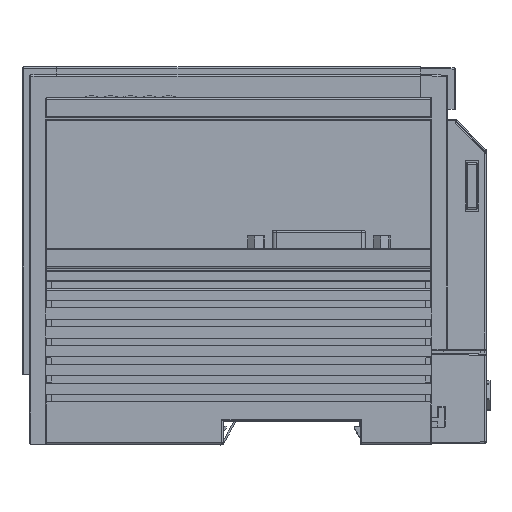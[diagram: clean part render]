
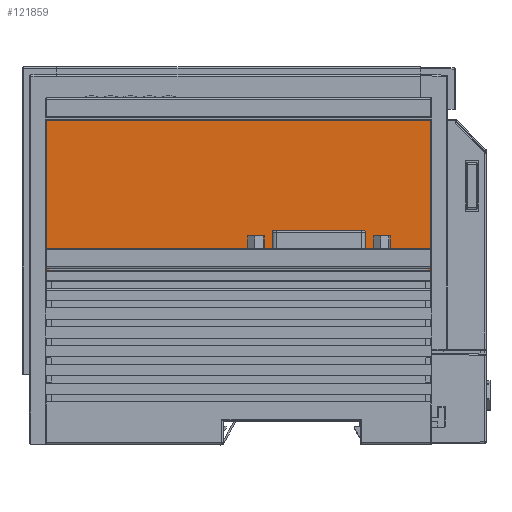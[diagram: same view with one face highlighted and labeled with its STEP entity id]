
A CAD part, left-side view. The second image highlights one B-rep face of the part: STEP entity #121859.
In plain terms, the highlighted planar face has unit normal (-1, 0, 0).
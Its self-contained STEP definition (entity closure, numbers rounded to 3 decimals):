
#5137=FACE_OUTER_BOUND('',#11678,.T.);
#11678=EDGE_LOOP('',(#82205,#82206,#82207,#82208,#82209,#82210,#82211,#82212,
#82213,#82214,#82215,#82216));
#22696=LINE('',#177786,#36389);
#22697=LINE('',#177788,#36390);
#22698=LINE('',#177790,#36391);
#22699=LINE('',#177792,#36392);
#22700=LINE('',#177794,#36393);
#22701=LINE('',#177796,#36394);
#22702=LINE('',#177798,#36395);
#22703=LINE('',#177800,#36396);
#22704=LINE('',#177802,#36397);
#22705=LINE('',#177804,#36398);
#22706=LINE('',#177806,#36399);
#22707=LINE('',#177807,#36400);
#36389=VECTOR('',#143333,10.);
#36390=VECTOR('',#143334,10.);
#36391=VECTOR('',#143335,10.);
#36392=VECTOR('',#143336,10.);
#36393=VECTOR('',#143337,10.);
#36394=VECTOR('',#143338,10.);
#36395=VECTOR('',#143339,1.);
#36396=VECTOR('',#143340,1.);
#36397=VECTOR('',#143341,1.);
#36398=VECTOR('',#143342,1.);
#36399=VECTOR('',#143343,10.);
#36400=VECTOR('',#143344,10.);
#49559=VERTEX_POINT('',#177784);
#49560=VERTEX_POINT('',#177785);
#49561=VERTEX_POINT('',#177787);
#49562=VERTEX_POINT('',#177789);
#49563=VERTEX_POINT('',#177791);
#49564=VERTEX_POINT('',#177793);
#49565=VERTEX_POINT('',#177795);
#49566=VERTEX_POINT('',#177797);
#49567=VERTEX_POINT('',#177799);
#49568=VERTEX_POINT('',#177801);
#49569=VERTEX_POINT('',#177803);
#49570=VERTEX_POINT('',#177805);
#61756=EDGE_CURVE('',#49559,#49560,#22696,.T.);
#61757=EDGE_CURVE('',#49560,#49561,#22697,.T.);
#61758=EDGE_CURVE('',#49561,#49562,#22698,.T.);
#61759=EDGE_CURVE('',#49562,#49563,#22699,.T.);
#61760=EDGE_CURVE('',#49563,#49564,#22700,.T.);
#61761=EDGE_CURVE('',#49564,#49565,#22701,.T.);
#61762=EDGE_CURVE('',#49566,#49565,#22702,.T.);
#61763=EDGE_CURVE('',#49567,#49566,#22703,.T.);
#61764=EDGE_CURVE('',#49568,#49567,#22704,.T.);
#61765=EDGE_CURVE('',#49569,#49568,#22705,.T.);
#61766=EDGE_CURVE('',#49569,#49570,#22706,.T.);
#61767=EDGE_CURVE('',#49570,#49559,#22707,.T.);
#82205=ORIENTED_EDGE('',*,*,#61756,.T.);
#82206=ORIENTED_EDGE('',*,*,#61757,.T.);
#82207=ORIENTED_EDGE('',*,*,#61758,.T.);
#82208=ORIENTED_EDGE('',*,*,#61759,.T.);
#82209=ORIENTED_EDGE('',*,*,#61760,.T.);
#82210=ORIENTED_EDGE('',*,*,#61761,.T.);
#82211=ORIENTED_EDGE('',*,*,#61762,.F.);
#82212=ORIENTED_EDGE('',*,*,#61763,.F.);
#82213=ORIENTED_EDGE('',*,*,#61764,.F.);
#82214=ORIENTED_EDGE('',*,*,#61765,.F.);
#82215=ORIENTED_EDGE('',*,*,#61766,.T.);
#82216=ORIENTED_EDGE('',*,*,#61767,.T.);
#110763=PLANE('',#129032);
#121859=ADVANCED_FACE('',(#5137),#110763,.F.);
#129032=AXIS2_PLACEMENT_3D('',#177783,#143331,#143332);
#143331=DIRECTION('center_axis',(1.,0.,0.));
#143332=DIRECTION('ref_axis',(0.,0.,-1.));
#143333=DIRECTION('',(0.,-1.,0.));
#143334=DIRECTION('',(0.,0.,-1.));
#143335=DIRECTION('',(0.,-1.,0.));
#143336=DIRECTION('',(0.,0.,1.));
#143337=DIRECTION('',(0.,-1.,0.));
#143338=DIRECTION('',(0.,0.,-1.));
#143339=DIRECTION('',(0.,1.,0.));
#143340=DIRECTION('',(0.,0.,-1.));
#143341=DIRECTION('',(0.,-1.,0.));
#143342=DIRECTION('',(0.,0.,1.));
#143343=DIRECTION('',(0.,-1.,0.));
#143344=DIRECTION('',(0.,0.,1.));
#177783=CARTESIAN_POINT('Origin',(-2.5,-0.445,
-0.623));
#177784=CARTESIAN_POINT('',(-2.5,48.5,4.896));
#177785=CARTESIAN_POINT('',(-2.5,27.776,4.896));
#177786=CARTESIAN_POINT('',(-2.5,13.665,4.896));
#177787=CARTESIAN_POINT('',(-2.5,27.776,1.151));
#177788=CARTESIAN_POINT('',(-2.5,27.776,0.264));
#177789=CARTESIAN_POINT('',(-2.5,-29.578,1.151));
#177790=CARTESIAN_POINT('',(-2.5,-15.011,1.151));
#177791=CARTESIAN_POINT('',(-2.5,-29.578,4.8));
#177792=CARTESIAN_POINT('',(-2.5,-29.578,2.089));
#177793=CARTESIAN_POINT('',(-2.5,-48.5,4.8));
#177794=CARTESIAN_POINT('',(-2.5,-24.473,4.8));
#177795=CARTESIAN_POINT('',(-2.5,-48.5,-43.7));
#177796=CARTESIAN_POINT('',(-2.5,-48.5,-10.857));
#177797=CARTESIAN_POINT('',(-2.5,-49.7,-43.7));
#177798=CARTESIAN_POINT('',(-2.5,-15.973,-43.7));
#177799=CARTESIAN_POINT('',(-2.5,-49.7,39.7));
#177800=CARTESIAN_POINT('',(-2.5,-49.7,-22.311));
#177801=CARTESIAN_POINT('',(-2.5,49.7,39.7));
#177802=CARTESIAN_POINT('',(-2.5,-25.223,39.7));
#177803=CARTESIAN_POINT('',(-2.5,49.7,-23.682));
#177804=CARTESIAN_POINT('',(-2.5,49.7,19.689));
#177805=CARTESIAN_POINT('',(-2.5,48.5,-23.682));
#177806=CARTESIAN_POINT('',(-2.5,24.777,-23.682));
#177807=CARTESIAN_POINT('',(-2.5,48.5,2.137));
